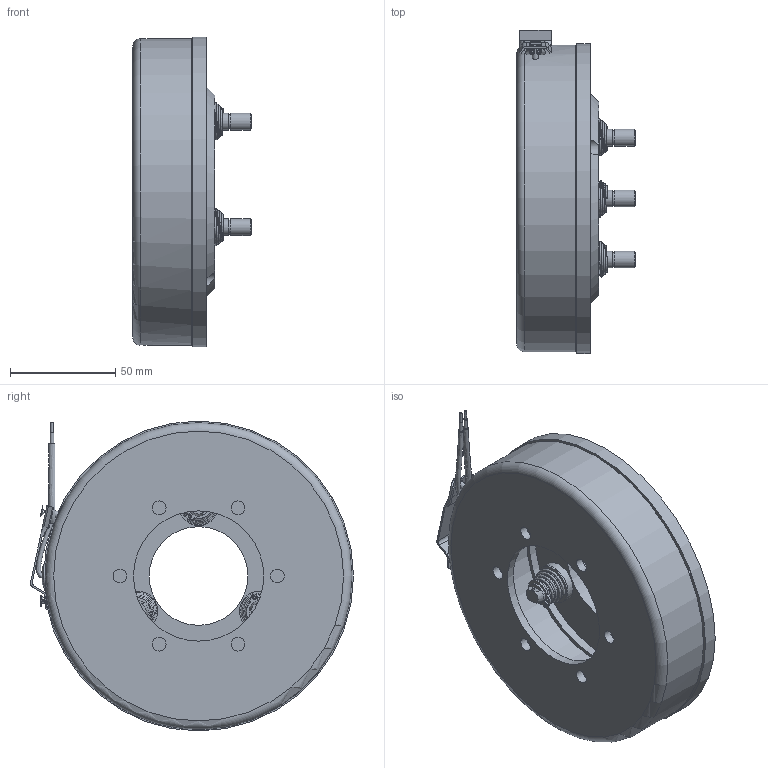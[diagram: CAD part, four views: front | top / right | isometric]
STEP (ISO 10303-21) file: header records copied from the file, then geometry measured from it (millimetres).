
FILE_DESCRIPTION(/* description */ (''),/* implementation_level */ '2;1');
FILE_NAME(/* name */ 'X:\INVENTOR\DISEGNI\08_Freni_Friz_Elettmag_Monodisco\08_04 EMF\08_04_145_01 EMF145\08_04_145_01 EMF145@STEP.stp',/* time_stamp */ '2019-10-29T10:27:45+01:00',/* author */ ('stefano'),/* organization */ (''),/* preprocessor_version */ 'ST-DEVELOPER v17',/* originating_system */ 'Autodesk Inventor 2018',/* authorisation */ '');
FILE_SCHEMA (('AUTOMOTIVE_DESIGN { 1 0 10303 214 3 1 1 }'));
Length unit declared in the file: millimetre
Products named in the file (1): 08_04_145_01 EMF145_Substitute_1
Bounding box: 56.6 x 153.79 x 147.5 mm (x, y, z)
Volume: 313989 mm3; surface area: 119268.4 mm2
Topology: 8 solids, 8 shells, 295 faces, 805 edges, 566 vertices
Faces by surface type: plane 145, cylinder 100, cone 22, bspline 16, torus 12
Full cylindrical faces by diameter (mm): 1.067 x2, 1.5 x9, 1.8 x2, 2.693 x2, 3 x2, 4 x3, 6.5 x9, 7.5 x8, 8 x6, 9 x1, 9.6 x3, 10 x9, 10.5 x3, 11 x1, 15 x3, 19 x6, 47 x1, 62 x1, 90 x1, 92 x1, 107 x1, 135 x1, 146 x1, 147.5 x1
Entity records: 15617 total; most frequent: CARTESIAN_POINT 7232, DIRECTION 1736, ORIENTED_EDGE 1634, EDGE_CURVE 817, AXIS2_PLACEMENT_3D 732, VERTEX_POINT 578, CIRCLE 452, EDGE_LOOP 404
